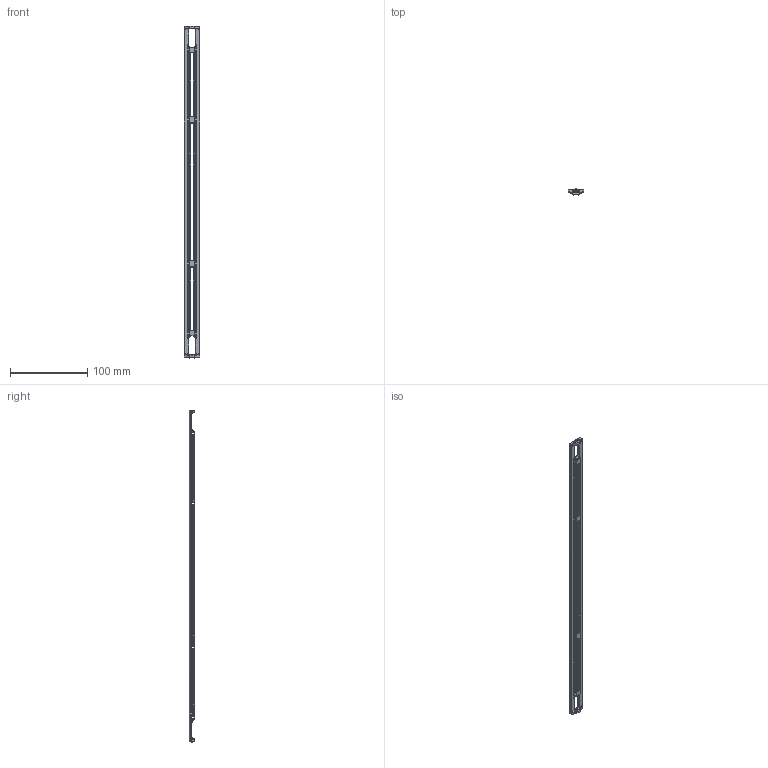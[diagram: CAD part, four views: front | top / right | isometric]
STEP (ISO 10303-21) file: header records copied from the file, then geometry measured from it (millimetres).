
FILE_DESCRIPTION (( 'STEP AP214' ), '1' );
FILE_NAME ('BR-102784-501_Rev_6.step', '2024-12-10T19:11:24', ( '' ), ( '' ), 'SwSTEP 2.0', 'SolidWorks 2024', '' );
FILE_SCHEMA (( 'AUTOMOTIVE_DESIGN' ));
Length unit declared in the file: millimetre
Products named in the file (1): BR-102784-501_Rev_6
Bounding box: 20 x 7.09 x 431 mm (x, y, z)
Volume: 25251.2 mm3; surface area: 23162 mm2
Topology: 1 solids, 1 shells, 358 faces, 875 edges, 491 vertices
Faces by surface type: plane 115, cylinder 86, cone 80, bspline 77
Entity records: 25002 total; most frequent: CARTESIAN_POINT 17546, ORIENTED_EDGE 1702, DIRECTION 1270, EDGE_CURVE 851, VERTEX_POINT 491, AXIS2_PLACEMENT_3D 456, EDGE_LOOP 380, ADVANCED_FACE 358
